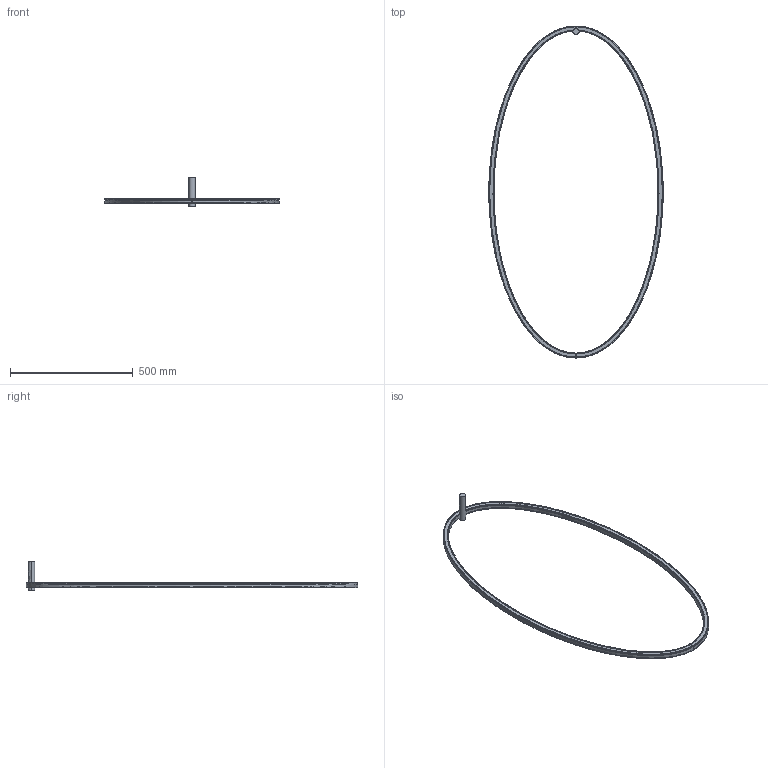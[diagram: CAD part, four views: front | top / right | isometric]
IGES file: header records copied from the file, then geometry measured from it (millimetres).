
Start section: SolidWorks IGES file using analytic representation for surfaces
Global section: file name: C:\Users\tungari.NEMOLIGHTING\Desktop\3D\WALL\3D_ELLISSE_WALLLLL\DEF\3D_ELLISSE_WALL.IGS; native system: SolidWorks 2016; preprocessor: SolidWorks 2016; author: tungari; date: 180312.171043; units: millimetre
Bounding box: 709 x 1350 x 120 mm (x, y, z)
Surface area: 551850.3 mm2 (no closed solid volume)
Topology: 0 solids, 0 shells, 369 faces, 4044 edges, 4044 vertices
Faces by surface type: revolution 226, bspline 143
